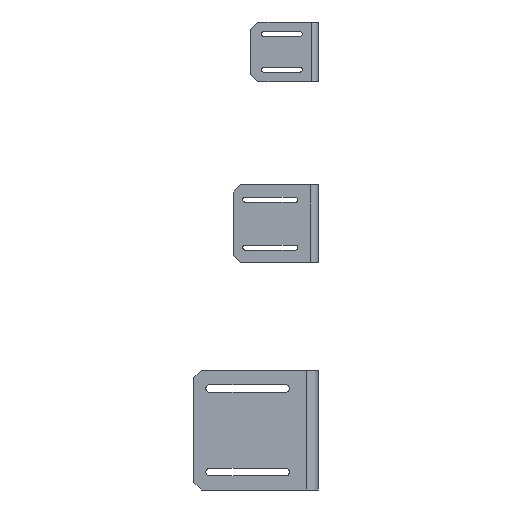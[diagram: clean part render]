
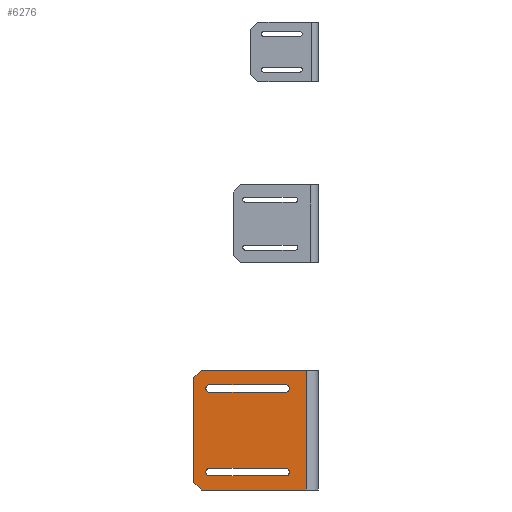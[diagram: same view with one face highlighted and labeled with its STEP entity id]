
A CAD part, left-side view. The second image highlights one B-rep face of the part: STEP entity #6276.
In plain terms, the highlighted planar face has unit normal (-1, 0, 0) as drawn and (0, -1, 0) by its records, which use the part's own axes.
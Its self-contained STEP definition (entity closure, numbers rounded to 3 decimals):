
#336 = ORIENTED_EDGE ( 'NONE', *, *, #3549, .F. ) ;
#417 = EDGE_CURVE ( 'NONE', #1430, #6340, #3318, .T. ) ;
#422 = AXIS2_PLACEMENT_3D ( 'NONE', #8423, #5382, #12961 ) ;
#449 = CARTESIAN_POINT ( 'NONE',  ( 0., -5.9, 50. ) ) ;
#657 = VERTEX_POINT ( 'NONE', #797 ) ;
#665 = VECTOR ( 'NONE', #10300, 1000. ) ;
#797 = CARTESIAN_POINT ( 'NONE',  ( 17.2, -5.9, -38.2 ) ) ;
#801 = CARTESIAN_POINT ( 'NONE',  ( 94., -5.9, 44. ) ) ;
#861 = FACE_OUTER_BOUND ( 'NONE', #9973, .T. ) ;
#892 = CARTESIAN_POINT ( 'NONE',  ( 80.8, -5.9, 38.2 ) ) ;
#1069 = EDGE_CURVE ( 'NONE', #12443, #4003, #2976, .T. ) ;
#1135 = LINE ( 'NONE', #4388, #5004 ) ;
#1226 = AXIS2_PLACEMENT_3D ( 'NONE', #1854, #13692, #5043 ) ;
#1430 = VERTEX_POINT ( 'NONE', #7335 ) ;
#1703 = CARTESIAN_POINT ( 'NONE',  ( 0., -5.9, -50. ) ) ;
#1854 = CARTESIAN_POINT ( 'NONE',  ( 0., -5.9, 50. ) ) ;
#2089 = DIRECTION ( 'NONE',  ( 0., 0., 1. ) ) ;
#2160 = ORIENTED_EDGE ( 'NONE', *, *, #10370, .T. ) ;
#2233 = DIRECTION ( 'NONE',  ( 0., 1., 0. ) ) ;
#2576 = CARTESIAN_POINT ( 'NONE',  ( 88., -5.9, 50. ) ) ;
#2603 = CARTESIAN_POINT ( 'NONE',  ( 17.2, -5.9, 38.2 ) ) ;
#2976 = LINE ( 'NONE', #1703, #7963 ) ;
#3139 = DIRECTION ( 'NONE',  ( -0.707, 0., 0.707 ) ) ;
#3291 = ORIENTED_EDGE ( 'NONE', *, *, #9749, .F. ) ;
#3318 = LINE ( 'NONE', #10681, #13206 ) ;
#3328 = DIRECTION ( 'NONE',  ( 0., 0., -1. ) ) ;
#3490 = ORIENTED_EDGE ( 'NONE', *, *, #6316, .T. ) ;
#3549 = EDGE_CURVE ( 'NONE', #8518, #9382, #7995, .T. ) ;
#3571 = CARTESIAN_POINT ( 'NONE',  ( 94., -5.9, 44. ) ) ;
#3883 = CARTESIAN_POINT ( 'NONE',  ( 0., -5.9, -38.2 ) ) ;
#3955 = ORIENTED_EDGE ( 'NONE', *, *, #13754, .T. ) ;
#3976 = VERTEX_POINT ( 'NONE', #2576 ) ;
#4003 = VERTEX_POINT ( 'NONE', #5253 ) ;
#4388 = CARTESIAN_POINT ( 'NONE',  ( 94., -5.9, 50. ) ) ;
#4560 = VERTEX_POINT ( 'NONE', #9189 ) ;
#4601 = DIRECTION ( 'NONE',  ( 0., 0., 1. ) ) ;
#4946 = LINE ( 'NONE', #3883, #9182 ) ;
#5004 = VECTOR ( 'NONE', #3328, 1000. ) ;
#5043 = DIRECTION ( 'NONE',  ( 0., 0., 1. ) ) ;
#5049 = AXIS2_PLACEMENT_3D ( 'NONE', #5490, #2233, #2089 ) ;
#5182 = CARTESIAN_POINT ( 'NONE',  ( 80.8, -5.9, -38.2 ) ) ;
#5253 = CARTESIAN_POINT ( 'NONE',  ( 88., -5.9, -50. ) ) ;
#5382 = DIRECTION ( 'NONE',  ( 0., -1., 0. ) ) ;
#5490 = CARTESIAN_POINT ( 'NONE',  ( 17.2, -5.9, -35. ) ) ;
#5713 = VERTEX_POINT ( 'NONE', #12236 ) ;
#5725 = CARTESIAN_POINT ( 'NONE',  ( 17.2, -5.9, 31.8 ) ) ;
#5838 = ORIENTED_EDGE ( 'NONE', *, *, #6781, .F. ) ;
#5861 = LINE ( 'NONE', #6859, #11273 ) ;
#5928 = EDGE_CURVE ( 'NONE', #657, #1430, #9337, .T. ) ;
#6094 = DIRECTION ( 'NONE',  ( 1., 0., 0. ) ) ;
#6258 = CARTESIAN_POINT ( 'NONE',  ( 94., -5.9, -44. ) ) ;
#6276 = ADVANCED_FACE ( 'NONE', ( #861, #10360, #10635 ), #7240, .F. ) ;
#6316 = EDGE_CURVE ( 'NONE', #6340, #12230, #6874, .T. ) ;
#6323 = VECTOR ( 'NONE', #12044, 1000. ) ;
#6327 = CARTESIAN_POINT ( 'NONE',  ( 0., -5.9, 50. ) ) ;
#6340 = VERTEX_POINT ( 'NONE', #8720 ) ;
#6781 = EDGE_CURVE ( 'NONE', #11036, #9878, #1135, .T. ) ;
#6859 = CARTESIAN_POINT ( 'NONE',  ( 88., -5.9, -50. ) ) ;
#6874 = CIRCLE ( 'NONE', #7319, 3.2 ) ;
#6931 = DIRECTION ( 'NONE',  ( 0., -1., 0. ) ) ;
#7240 = PLANE ( 'NONE',  #1226 ) ;
#7250 = LINE ( 'NONE', #6327, #9695 ) ;
#7255 = CIRCLE ( 'NONE', #10641, 3.2 ) ;
#7282 = ORIENTED_EDGE ( 'NONE', *, *, #7909, .F. ) ;
#7306 = ORIENTED_EDGE ( 'NONE', *, *, #10083, .F. ) ;
#7319 = AXIS2_PLACEMENT_3D ( 'NONE', #8374, #9437, #9646 ) ;
#7335 = CARTESIAN_POINT ( 'NONE',  ( 17.2, -5.9, -31.8 ) ) ;
#7621 = VECTOR ( 'NONE', #3139, 1000. ) ;
#7645 = DIRECTION ( 'NONE',  ( 1., 0., 0. ) ) ;
#7843 = LINE ( 'NONE', #13299, #665 ) ;
#7846 = EDGE_LOOP ( 'NONE', ( #13026, #13236, #8708, #3490 ) ) ;
#7909 = EDGE_CURVE ( 'NONE', #9382, #8281, #7255, .T. ) ;
#7963 = VECTOR ( 'NONE', #6094, 1000. ) ;
#7995 = LINE ( 'NONE', #10977, #6323 ) ;
#8069 = CARTESIAN_POINT ( 'NONE',  ( 17.2, -5.9, 35. ) ) ;
#8203 = DIRECTION ( 'NONE',  ( -1., 0., 0. ) ) ;
#8281 = VERTEX_POINT ( 'NONE', #5725 ) ;
#8314 = LINE ( 'NONE', #801, #7621 ) ;
#8374 = CARTESIAN_POINT ( 'NONE',  ( 80.8, -5.9, -35. ) ) ;
#8423 = CARTESIAN_POINT ( 'NONE',  ( 80.8, -5.9, 35. ) ) ;
#8518 = VERTEX_POINT ( 'NONE', #892 ) ;
#8708 = ORIENTED_EDGE ( 'NONE', *, *, #417, .T. ) ;
#8720 = CARTESIAN_POINT ( 'NONE',  ( 80.8, -5.9, -31.8 ) ) ;
#8954 = ORIENTED_EDGE ( 'NONE', *, *, #9926, .F. ) ;
#9182 = VECTOR ( 'NONE', #8203, 1000. ) ;
#9189 = CARTESIAN_POINT ( 'NONE',  ( 80.8, -5.9, 31.8 ) ) ;
#9216 = ORIENTED_EDGE ( 'NONE', *, *, #1069, .T. ) ;
#9337 = CIRCLE ( 'NONE', #5049, 3.2 ) ;
#9382 = VERTEX_POINT ( 'NONE', #2603 ) ;
#9437 = DIRECTION ( 'NONE',  ( 0., 1., 0. ) ) ;
#9646 = DIRECTION ( 'NONE',  ( 0., 0., 1. ) ) ;
#9695 = VECTOR ( 'NONE', #13634, 1000. ) ;
#9749 = EDGE_CURVE ( 'NONE', #8281, #4560, #7843, .T. ) ;
#9870 = VECTOR ( 'NONE', #10350, 1000. ) ;
#9878 = VERTEX_POINT ( 'NONE', #6258 ) ;
#9926 = EDGE_CURVE ( 'NONE', #5713, #3976, #7250, .T. ) ;
#9973 = EDGE_LOOP ( 'NONE', ( #9216, #2160, #5838, #3955, #8954, #10015 ) ) ;
#10015 = ORIENTED_EDGE ( 'NONE', *, *, #12940, .T. ) ;
#10083 = EDGE_CURVE ( 'NONE', #4560, #8518, #11059, .T. ) ;
#10300 = DIRECTION ( 'NONE',  ( 1., 0., 0. ) ) ;
#10334 = CARTESIAN_POINT ( 'NONE',  ( 0., -5.9, -50. ) ) ;
#10350 = DIRECTION ( 'NONE',  ( 0., 0., -1. ) ) ;
#10360 = FACE_BOUND ( 'NONE', #7846, .T. ) ;
#10370 = EDGE_CURVE ( 'NONE', #4003, #9878, #5861, .T. ) ;
#10635 = FACE_BOUND ( 'NONE', #12810, .T. ) ;
#10641 = AXIS2_PLACEMENT_3D ( 'NONE', #8069, #6931, #4601 ) ;
#10681 = CARTESIAN_POINT ( 'NONE',  ( 0., -5.9, -31.8 ) ) ;
#10977 = CARTESIAN_POINT ( 'NONE',  ( 0., -5.9, 38.2 ) ) ;
#11036 = VERTEX_POINT ( 'NONE', #3571 ) ;
#11059 = CIRCLE ( 'NONE', #422, 3.2 ) ;
#11273 = VECTOR ( 'NONE', #11453, 1000. ) ;
#11453 = DIRECTION ( 'NONE',  ( 0.707, 0., 0.707 ) ) ;
#12044 = DIRECTION ( 'NONE',  ( -1., 0., 0. ) ) ;
#12230 = VERTEX_POINT ( 'NONE', #5182 ) ;
#12236 = CARTESIAN_POINT ( 'NONE',  ( 0., -5.9, 50. ) ) ;
#12443 = VERTEX_POINT ( 'NONE', #10334 ) ;
#12458 = EDGE_CURVE ( 'NONE', #12230, #657, #4946, .T. ) ;
#12480 = LINE ( 'NONE', #449, #9870 ) ;
#12810 = EDGE_LOOP ( 'NONE', ( #7282, #336, #7306, #3291 ) ) ;
#12940 = EDGE_CURVE ( 'NONE', #5713, #12443, #12480, .T. ) ;
#12961 = DIRECTION ( 'NONE',  ( 0., 0., 1. ) ) ;
#13026 = ORIENTED_EDGE ( 'NONE', *, *, #12458, .T. ) ;
#13206 = VECTOR ( 'NONE', #7645, 1000. ) ;
#13236 = ORIENTED_EDGE ( 'NONE', *, *, #5928, .T. ) ;
#13299 = CARTESIAN_POINT ( 'NONE',  ( 0., -5.9, 31.8 ) ) ;
#13634 = DIRECTION ( 'NONE',  ( 1., 0., 0. ) ) ;
#13692 = DIRECTION ( 'NONE',  ( 0., 1., 0. ) ) ;
#13754 = EDGE_CURVE ( 'NONE', #11036, #3976, #8314, .T. ) ;
